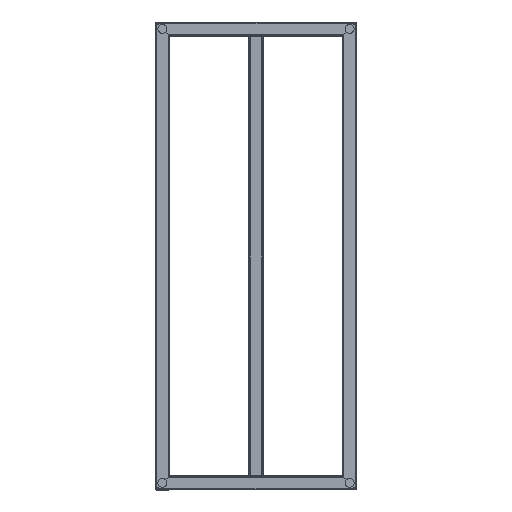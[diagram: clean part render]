
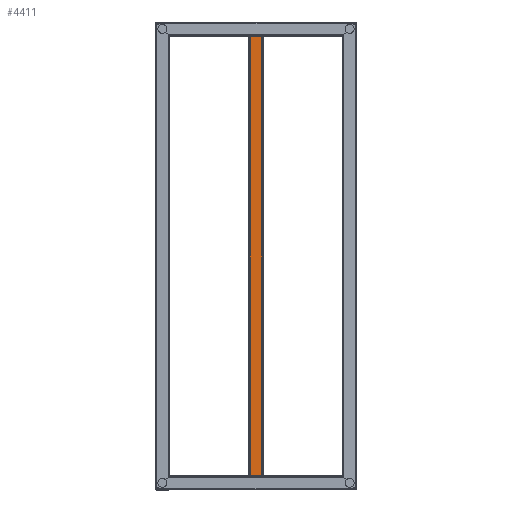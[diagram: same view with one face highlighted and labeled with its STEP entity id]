
A CAD part, front view. The second image highlights one B-rep face of the part: STEP entity #4411.
In plain terms, the highlighted planar face has unit normal (0, -1, 0) as drawn and (0, 1, 0) by its records, which use the part's own axes.
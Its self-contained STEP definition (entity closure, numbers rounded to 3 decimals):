
#48 = FACE_OUTER_BOUND ( 'NONE', #4075, .T. ) ;
#162 = DIRECTION ( 'NONE',  ( 0., 0., 1. ) ) ;
#281 = ORIENTED_EDGE ( 'NONE', *, *, #2692, .T. ) ;
#863 = CARTESIAN_POINT ( 'NONE',  ( 7.5, 7.5, 470. ) ) ;
#925 = ORIENTED_EDGE ( 'NONE', *, *, #4023, .T. ) ;
#1112 = DIRECTION ( 'NONE',  ( 0., 0., -1. ) ) ;
#1295 = EDGE_CURVE ( 'NONE', #2256, #4476, #2179, .T. ) ;
#1677 = AXIS2_PLACEMENT_3D ( 'NONE', #863, #3368, #1749 ) ;
#1730 = DIRECTION ( 'NONE',  ( -1., 0., 0. ) ) ;
#1733 = ORIENTED_EDGE ( 'NONE', *, *, #1295, .F. ) ;
#1749 = DIRECTION ( 'NONE',  ( 1., 0., 0. ) ) ;
#1892 = VECTOR ( 'NONE', #1730, 1000. ) ;
#1997 = CARTESIAN_POINT ( 'NONE',  ( 6.5, 7.5, 0. ) ) ;
#2179 = LINE ( 'NONE', #4246, #1892 ) ;
#2186 = CARTESIAN_POINT ( 'NONE',  ( 7.5, 7.5, 0. ) ) ;
#2249 = VECTOR ( 'NONE', #1112, 1000. ) ;
#2252 = VERTEX_POINT ( 'NONE', #2384 ) ;
#2256 = VERTEX_POINT ( 'NONE', #3948 ) ;
#2297 = CARTESIAN_POINT ( 'NONE',  ( 6.5, 7.5, 470. ) ) ;
#2384 = CARTESIAN_POINT ( 'NONE',  ( -6.5, 7.5, 0. ) ) ;
#2601 = VECTOR ( 'NONE', #162, 1000. ) ;
#2659 = LINE ( 'NONE', #2186, #4025 ) ;
#2692 = EDGE_CURVE ( 'NONE', #4565, #2252, #2659, .T. ) ;
#3093 = EDGE_CURVE ( 'NONE', #2252, #4476, #4219, .T. ) ;
#3368 = DIRECTION ( 'NONE',  ( 0., -1., 0. ) ) ;
#3729 = PLANE ( 'NONE',  #1677 ) ;
#3791 = CARTESIAN_POINT ( 'NONE',  ( -6.5, 7.5, 470. ) ) ;
#3812 = CARTESIAN_POINT ( 'NONE',  ( -6.5, 7.5, 470. ) ) ;
#3814 = ORIENTED_EDGE ( 'NONE', *, *, #3093, .T. ) ;
#3948 = CARTESIAN_POINT ( 'NONE',  ( 6.5, 7.5, 470. ) ) ;
#4023 = EDGE_CURVE ( 'NONE', #2256, #4565, #5104, .T. ) ;
#4025 = VECTOR ( 'NONE', #4273, 1000. ) ;
#4075 = EDGE_LOOP ( 'NONE', ( #281, #3814, #1733, #925 ) ) ;
#4219 = LINE ( 'NONE', #3791, #2601 ) ;
#4246 = CARTESIAN_POINT ( 'NONE',  ( 7.5, 7.5, 470. ) ) ;
#4273 = DIRECTION ( 'NONE',  ( -1., 0., 0. ) ) ;
#4411 = ADVANCED_FACE ( 'NONE', ( #48 ), #3729, .F. ) ;
#4476 = VERTEX_POINT ( 'NONE', #3812 ) ;
#4565 = VERTEX_POINT ( 'NONE', #1997 ) ;
#5104 = LINE ( 'NONE', #2297, #2249 ) ;
